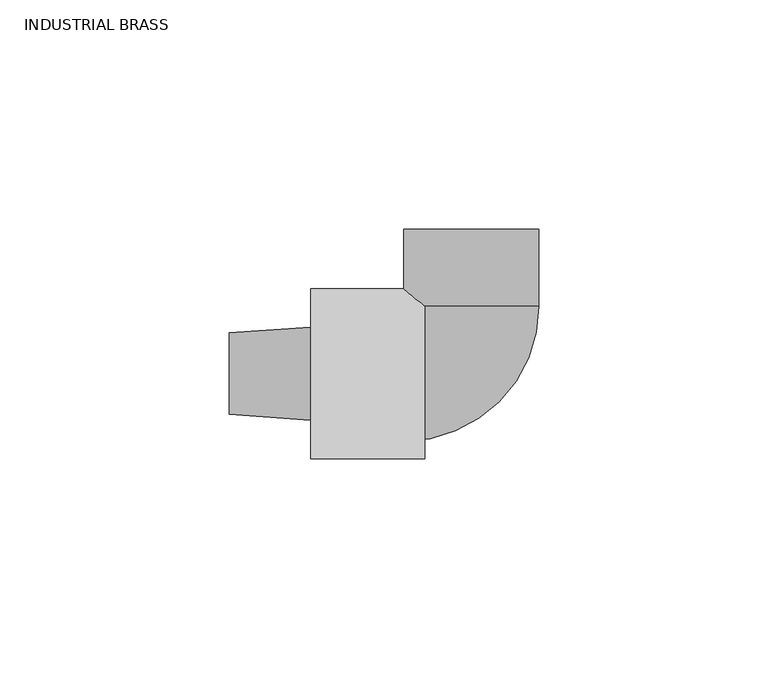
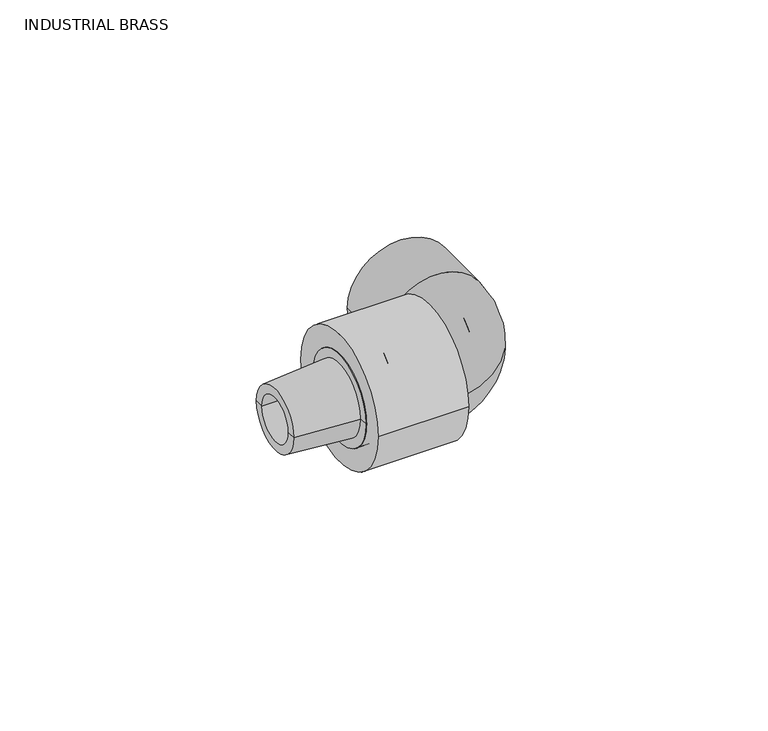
"""IFC4 building model written with IfcOpenShell, lengths in millimetres: valve geometry, Aquatherm - Elbow Transition PPR to M NPT : INDUSTRIAL BRASS."""

from ifc_helpers import new_model, si_unit, point, frame, origin, origin_2d, place, context, project, spatial, polyline, circle_curve, ellipse_curve, trimmed, segment, composite_curve, outline, extrude, source, transform, mapped, element, save
from ifc_brep_helpers import plane_surface, cylinder_surface, revolved_surface, advanced_brep


def industrial_brass_f41a051e(model_context):
    return source(origin(), model_context, "Body", "SolidModel", [
        advanced_brep(
        [(-16.002, -6.35, 0.0), (-16.002, 6.35, 0.0), (-52.8121562, 6.35, 0.0), (-52.8121562, -6.35, 0.0), (-16.002, -12.7, 0.0), (-16.002, 12.7, 0.0), (-35.052, -12.7, 0.0), (-35.052, 12.7, 0.0), (-52.8121562, 8.9193357, 0.0), (-52.8121562, -8.9193357, 0.0), (-35.052, -10.1350212, 0.0), (-35.052, 10.1350212, 0.0)],
        [
            (0, 1, circle_curve(frame((-16.002, 0.0, 0.0), z_axis=(1.0, 0.0, 0.0), x_axis=(0.0, 1.0, 0.0)), 6.35)),
            (1, 2),
            (2, 3, circle_curve(frame((-52.8121562, 0.0, 0.0), z_axis=(-1.0, 0.0, 0.0), x_axis=(0.0, 1.0, 0.0)), 6.35)),
            (3, 0),
            (1, 0, circle_curve(frame((-16.002, 0.0, 0.0), z_axis=(1.0, 0.0, 0.0), x_axis=(0.0, 1.0, 0.0)), 6.35)),
            (3, 2, circle_curve(frame((-52.8121562, 0.0, 0.0), z_axis=(-1.0, 0.0, 0.0), x_axis=(0.0, 1.0, 0.0)), 6.35)),
            (4, 5, circle_curve(frame((-16.002, 0.0, 0.0), z_axis=(1.0, 0.0, 0.0), x_axis=(0.0, 1.0, 0.0)), 12.7)),
            (5, 1),
            (0, 4),
            (5, 4, circle_curve(frame((-16.002, 0.0, 0.0), z_axis=(1.0, 0.0, 0.0), x_axis=(0.0, 1.0, 0.0)), 12.7)),
            (6, 7, circle_curve(frame((-35.052, 0.0, 0.0), z_axis=(1.0, 0.0, 0.0), x_axis=(0.0, 1.0, 0.0)), 12.7)),
            (7, 5),
            (4, 6),
            (7, 6, circle_curve(frame((-35.052, 0.0, 0.0), z_axis=(1.0, 0.0, 0.0), x_axis=(0.0, 1.0, 0.0)), 12.7)),
            (2, 8),
            (8, 9, circle_curve(frame((-52.8121562, 0.0, 0.0), z_axis=(-1.0, 0.0, 0.0), x_axis=(0.0, 1.0, 0.0)), 8.9193357)),
            (9, 3),
            (9, 8, circle_curve(frame((-52.8121562, 0.0, 0.0), z_axis=(-1.0, 0.0, 0.0), x_axis=(0.0, 1.0, 0.0)), 8.9193357)),
            (10, 11, circle_curve(frame((-35.052, 0.0, 0.0), z_axis=(1.0, 0.0, 0.0), x_axis=(0.0, 1.0, 0.0)), 10.1350212)),
            (11, 7),
            (6, 10),
            (11, 10, circle_curve(frame((-35.052, 0.0, 0.0), z_axis=(1.0, 0.0, 0.0), x_axis=(0.0, 1.0, 0.0)), 10.1350212)),
            (8, 11),
            (10, 9),
        ],
        [
            revolved_surface(polyline([(-52.8121562, 6.35, 0.0), (-16.001999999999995, 6.35, 0.0)]), (-54.6453813, 0.0, 0.0), (-1.0, 0.0, 0.0)),
            plane_surface(frame((-16.002, 0.0, 0.0), z_axis=(1.0, 0.0, 0.0), x_axis=(0.0, 1.0, 0.0))),
            cylinder_surface(frame((-54.6453813, 0.0, 0.0), z_axis=(-1.0, 0.0, 0.0), x_axis=(0.0, 1.0, 0.0)), 12.7),
            plane_surface(frame((-52.8121562, 0.0, 0.0), z_axis=(-1.0, 0.0, 0.0), x_axis=(0.0, 1.0, 0.0))),
            plane_surface(frame((-35.052, 0.0, 0.0), z_axis=(-1.0, 0.0, 0.0), x_axis=(0.0, 1.0, 0.0))),
            revolved_surface(polyline([(-35.052, 10.1350212, 0.0), (-52.8121562, 8.9193357, 0.0)]), (-54.6453813, 0.0, 0.0), (-1.0, 0.0, 0.0)),
        ],
        [
            (0, [[1, 2, 3, 4]]),
            (0, [[5, -4, 6, -2]]),
            (1, [[7, 8, -1, 9]]),
            (1, [[10, -9, -5, -8]]),
            (2, [[11, 12, -7, 13]]),
            (2, [[14, -13, -10, -12]]),
            (3, [[-3, 15, 16, 17]]),
            (3, [[-6, -17, 18, -15]]),
            (4, [[19, 20, -11, 21]]),
            (4, [[22, -21, -14, -20]]),
            (5, [[-16, 23, -19, 24]]),
            (5, [[-18, -24, -22, -23]]),
        ],
    ),
        advanced_brep(
        [(14.732, 14.732, 0.0), (-14.732, 14.732, 0.0), (6.35, 14.732, 0.0), (-6.35, 14.732, 0.0), (-14.732, -14.732, 0.0), (-14.732, -6.35, 0.0), (-14.732, 6.35, 0.0)],
        [
            (0, 1, circle_curve(frame((0.0, 14.732, 0.0), z_axis=(0.0, 1.0, 0.0), x_axis=(-1.0, 0.0, 0.0)), 14.732)),
            (1, 0, circle_curve(frame((0.0, 14.732, 0.0), z_axis=(0.0, 1.0, 0.0), x_axis=(-1.0, 0.0, 0.0)), 14.732)),
            (2, 3, circle_curve(frame((0.0, 14.732, 0.0), z_axis=(0.0, -1.0, 0.0), x_axis=(-1.0, 0.0, 0.0)), 6.35)),
            (3, 2, circle_curve(frame((0.0, 14.732, 0.0), z_axis=(0.0, -1.0, 0.0), x_axis=(-1.0, 0.0, 0.0)), 6.35)),
            (4, 1, circle_curve(frame((-14.732, 0.0, 0.0), z_axis=(-1.0, 0.0, 0.0), x_axis=(0.0, 1.0, 0.0)), 14.732)),
            (1, 4, circle_curve(frame((-14.732, 0.0, 0.0), z_axis=(-1.0, 0.0, 0.0), x_axis=(0.0, 1.0, 0.0)), 14.732)),
            (5, 6, circle_curve(frame((-14.732, 0.0, 0.0), z_axis=(1.0, 0.0, 0.0), x_axis=(0.0, 1.0, 0.0)), 6.35)),
            (6, 5, circle_curve(frame((-14.732, 0.0, 0.0), z_axis=(1.0, 0.0, 0.0), x_axis=(0.0, 1.0, 0.0)), 6.35)),
            (0, 4, circle_curve(frame((-14.732, 14.732, 0.0), z_axis=(0.0, 0.0, -1.0), x_axis=(1.0, 0.0, 0.0)), 29.464)),
            (6, 3, circle_curve(frame((-14.732, 14.732, 0.0), z_axis=(0.0, 0.0, 1.0), x_axis=(1.0, 0.0, 0.0)), 8.382)),
            (2, 5, circle_curve(frame((-14.732, 14.732, 0.0), z_axis=(0.0, 0.0, -1.0), x_axis=(1.0, 0.0, 0.0)), 21.082)),
        ],
        [
            plane_surface(frame((-14.732, 14.732, 41.9103543), z_axis=(0.0, 1.0, 0.0), x_axis=(1.0, 0.0, 0.0))),
            plane_surface(frame((-14.732, 14.732, 41.9103543), z_axis=(-1.0, 0.0, 0.0), x_axis=(0.0, -1.0, 0.0))),
            revolved_surface(trimmed(ellipse_curve(frame((0.0, 14.732, 0.0), z_axis=(0.0, 1.0, 0.0), x_axis=(-1.0, 0.0, 0.0)), 14.732, 14.732), [point((14.732, 14.732, 0.0))], [point((-14.732, 14.732, 0.0))], True, "CARTESIAN"), (-14.732, 14.732, 41.9103543), (0.0, 0.0, -1.0)),
            revolved_surface(trimmed(ellipse_curve(frame((0.0, 14.732, 0.0), z_axis=(0.0, 1.0, 0.0), x_axis=(-1.0, 0.0, 0.0)), 14.732, 14.732), [point((-14.732, 14.732, 0.0))], [point((14.732, 14.732, 0.0))], True, "CARTESIAN"), (-14.732, 14.732, 41.9103543), (0.0, 0.0, -1.0)),
            revolved_surface(trimmed(ellipse_curve(frame((0.0, 14.732, 0.0), z_axis=(0.0, -1.0, 0.0), x_axis=(-1.0, 0.0, 0.0)), 6.35, 6.35), [point((6.35, 14.732, 0.0))], [point((-6.35, 14.732, 0.0))], True, "CARTESIAN"), (-14.732, 14.732, 41.9103543), (0.0, 0.0, -1.0)),
            revolved_surface(trimmed(ellipse_curve(frame((0.0, 14.732, 0.0), z_axis=(0.0, -1.0, 0.0), x_axis=(-1.0, 0.0, 0.0)), 6.35, 6.35), [point((-6.35, 14.732, 0.0))], [point((6.35, 14.732, 0.0))], True, "CARTESIAN"), (-14.732, 14.732, 41.9103543), (0.0, 0.0, -1.0)),
        ],
        [
            (0, [[1, 2], [3, 4]]),
            (1, [[5, 6], [7, 8]]),
            (2, [[-1, 9, -6]]),
            (3, [[-9, -2, -5]]),
            (4, [[10, -3, 11, -8]]),
            (5, [[-11, -4, -10, -7]]),
        ],
    ),
        extrude(outline(composite_curve([segment(trimmed(circle_curve(origin_2d(), 14.732), [point((0.0, 14.732))], [point((0.0, -14.732))], False, "CARTESIAN"), True, "CONTINUOUS"), segment(trimmed(circle_curve(origin_2d(), 14.732), [point((0.0, -14.732))], [point((0.0, 14.732))], False, "CARTESIAN"), True, "CONTINUOUS")], self_intersect=False), holes=[composite_curve([segment(trimmed(circle_curve(origin_2d(), 10.033), [point((0.0, 10.033))], [point((0.0, -10.033))], True, "CARTESIAN"), True, "CONTINUOUS"), segment(trimmed(circle_curve(origin_2d(), 10.033), [point((0.0, -10.033))], [point((0.0, 10.033))], True, "CARTESIAN"), True, "CONTINUOUS")], self_intersect=False)]), frame((0.0, 14.732, 0.0), z_axis=(0.0, 1.0, 0.0), x_axis=(0.0, 0.0, 1.0)), (0.0, 0.0, 1.0), 16.764),
        extrude(outline(composite_curve([segment(trimmed(circle_curve(origin_2d(), 18.542), [point((-18.542, 0.0))], [point((18.542, 0.0))], False, "CARTESIAN"), True, "CONTINUOUS"), segment(trimmed(circle_curve(origin_2d(), 18.542), [point((18.542, 0.0))], [point((-18.542, 0.0))], False, "CARTESIAN"), True, "CONTINUOUS")], self_intersect=False), holes=[composite_curve([segment(trimmed(circle_curve(origin_2d(), 12.7), [point((-12.7, 0.0))], [point((12.7, 0.0))], True, "CARTESIAN"), True, "CONTINUOUS"), segment(trimmed(circle_curve(origin_2d(), 12.7), [point((12.7, 0.0))], [point((-12.7, 0.0))], True, "CARTESIAN"), True, "CONTINUOUS")], self_intersect=False)]), frame((-35.052, 0.0, 0.0), z_axis=(1.0, 0.0, 0.0), x_axis=(0.0, 1.0, 0.0)), (0.0, 0.0, 1.0), 24.892),
    ])


if __name__ == "__main__":
    model = new_model("IFC4")
    model_context = context("Model", 3, world=origin())
    ifc_project = project(units=[si_unit("LENGTHUNIT", "METRE", prefix="MILLI")], contexts=[model_context])
    site = spatial("IfcSite", under=ifc_project)
    building = spatial("IfcBuilding", under=site)
    placement = place(None, origin())
    industrial_brass_shape = industrial_brass_f41a051e(model_context)
    element("IfcValve", 1, ObjectType="Aquatherm - Elbow Transition PPR to M NPT : INDUSTRIAL BRASS", at=placement, inside=building, context=model_context, shape_type="MappedRepresentation", body=[
        mapped(industrial_brass_shape, transform((0.0, 0.0, 0.0), x_axis=(1.0, 0.0, 0.0), y_axis=(0.0, 1.0, 0.0), z_axis=(0.0, 0.0, 1.0))),
    ])
    save(model, "model.ifc")
